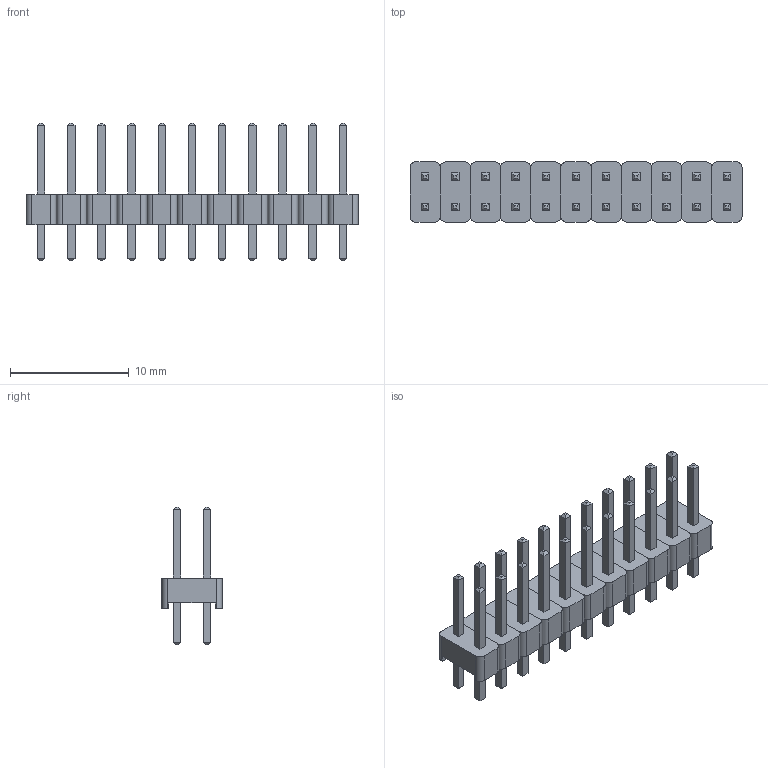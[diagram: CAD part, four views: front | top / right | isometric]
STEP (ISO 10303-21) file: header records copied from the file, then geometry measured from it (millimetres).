
FILE_DESCRIPTION(('FreeCAD Model'),'2;1');
FILE_NAME('Open CASCADE Shape Model','2022-04-06T15:56:36',( 'Engenharia Metaltex'),('Metaltex'), 'Open CASCADE STEP processor 7.5','FreeCAD','Unknown');
FILE_SCHEMA(('AUTOMOTIVE_DESIGN { 1 0 10303 214 1 1 1 1 }'));
Length unit declared in the file: millimetre
Products named in the file (45): BPDC; 1; Base; Pino1; Pino2; 2; Base001; Pino003; Pino004; 3; Base002; Pino006; Pino005; 4; Base003; Pino008; Pino007; 5; Base004; Pino009; Pino010; 6; Base005; Pino012; Pino011; 7; Base006; Pino013; Pino014; 8; Base007; Pino015; Pino016; 9; Base008; Pino017; Pino018; 10; Base009; Pino019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
Assembly tree (44 placements, depth 3):
  BPDC
    1
      Base
      Pino1
      Pino2
    2
      Base001
      Pino003
      Pino004
    3
      Base002
      Pino006
      Pino005
    4
      Base003
      Pino008
      Pino007
    5
      Base004
      Pino009
      Pino010
    6
      Base005
      Pino012
      Pino011
    7
      Base006
      Pino013
      Pino014
    8
      Base007
      Pino015
      Pino016
    9
      Base008
      Pino017
      Pino018
    10
      Base009
      Pino019
      Pino020
    11
      Base010
      Pino021
      Pino022
Bounding box: 27.94 x 5.08 x 11.54 mm (x, y, z)
Volume: 384.1 mm3; surface area: 1414.9 mm2
Topology: 33 solids, 33 shells, 550 faces, 1276 edges, 792 vertices
Faces by surface type: plane 506, cylinder 44
Entity records: 33019 total; most frequent: CARTESIAN_POINT 5479, DIRECTION 5062, LINE 3652, VECTOR 3652, ORIENTED_EDGE 2552, PCURVE 2552, DEFINITIONAL_REPRESENTATION 2552, EDGE_CURVE 1276
